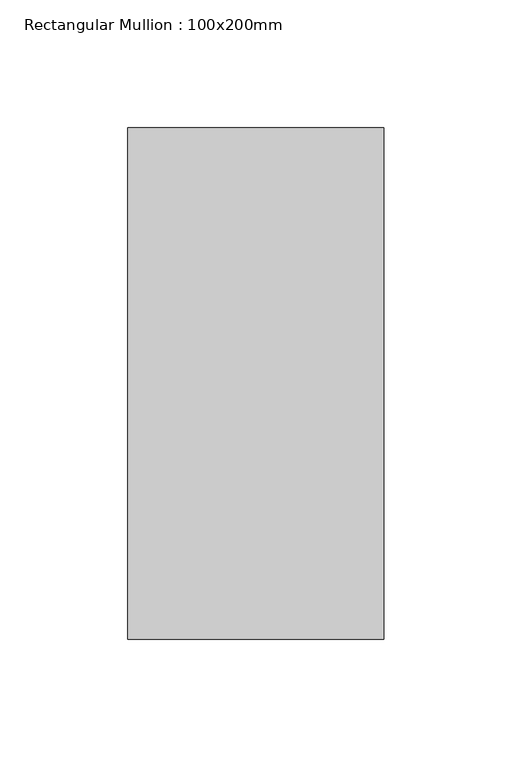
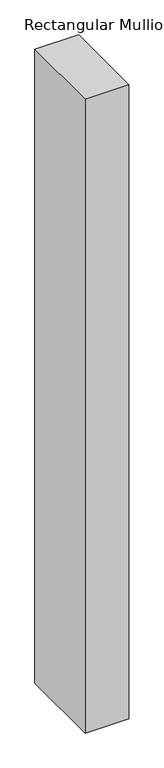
"""IFC4 building model written with IfcOpenShell, lengths in millimetres: member geometry, Rectangular Mullion : 100x200mm."""

from ifc_helpers import new_model, si_unit, frame, origin, place, context, project, spatial, polyline, outline, extrude, source, transform, mapped, element, save


def rectangular_mullion_100x200mm_6b932c36(model_context):
    return source(origin(), model_context, "Body", "SweptSolid", [
        extrude(outline(polyline([(0.0, 100.0), (0.0, -100.0), (-100.0, -100.0), (-100.0, 100.0), (0.0, 100.0)])), frame((0.0, 0.0, -1534.5727547), z_axis=(0.0, 0.0, 1.0), x_axis=(1.0, 0.0, 0.0)), (0.0, 0.0, 1.0), 1534.5727547),
    ])


if __name__ == "__main__":
    model = new_model("IFC4")
    model_context = context("Model", 3, world=origin())
    ifc_project = project(units=[si_unit("LENGTHUNIT", "METRE", prefix="MILLI")], contexts=[model_context])
    site = spatial("IfcSite", under=ifc_project)
    building = spatial("IfcBuilding", under=site)
    placement = place(None, origin())
    rectangular_mullion_100x200mm_shape = rectangular_mullion_100x200mm_6b932c36(model_context)
    element("IfcMember", 1, ObjectType="Rectangular Mullion : 100x200mm", at=placement, inside=building, context=model_context, shape_type="MappedRepresentation", body=[
        mapped(rectangular_mullion_100x200mm_shape, transform((0.0, 0.0, 0.0), x_axis=(1.0, 0.0, 0.0), y_axis=(0.0, 1.0, 0.0), z_axis=(0.0, 0.0, 1.0))),
    ])
    save(model, "model.ifc")
